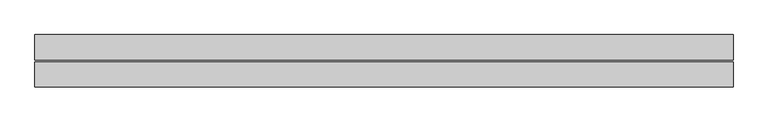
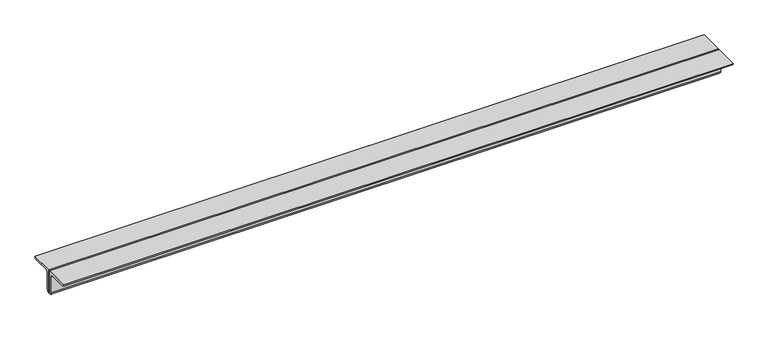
"""IFC4 building model written with IfcOpenShell, lengths in millimetres: beam geometry, Profilati doppi a L : DCED150x12."""

from ifc_helpers import new_model, si_unit, point, frame, frame_2d, origin, place, context, project, spatial, polyline, circle_curve, trimmed, segment, composite_curve, outline, extrude, source, transform, mapped, element, save


def beam_95cc8830(model_context):
    return source(origin(), model_context, "Body", "SweptSolid", [
        extrude(outline(composite_curve([segment(polyline([(-6.0, 42.4), (-6.0, -107.6)]), True, "CONTINUOUS"), segment(trimmed(circle_curve(frame_2d((-6.0, -92.6)), 15.0), [point((-6.0, -107.6))], [point((-21.0, -92.6))], False, "CARTESIAN"), True, "CONTINUOUS"), segment(polyline([(-21.0, -92.6), (-21.0, 12.4)]), True, "CONTINUOUS"), segment(trimmed(circle_curve(frame_2d((-36.0, 12.4)), 15.0), [point((-21.0, 12.4))], [point((-36.0, 27.4))], True, "CARTESIAN"), True, "CONTINUOUS"), segment(polyline([(-36.0, 27.4), (-141.0, 27.4)]), True, "CONTINUOUS"), segment(trimmed(circle_curve(frame_2d((-141.0, 42.4)), 15.0), [point((-141.0, 27.4))], [point((-156.0, 42.4))], False, "CARTESIAN"), True, "CONTINUOUS"), segment(polyline([(-156.0, 42.4), (-6.0, 42.4)]), True, "CONTINUOUS")], self_intersect=False)), frame((-1985.0, 0.0, 0.0), z_axis=(1.0, 0.0, 0.0), x_axis=(0.0, 1.0, 0.0)), (0.0, 0.0, 1.0), 4162.0),
        extrude(outline(composite_curve([segment(polyline([(6.0, 42.4), (156.0, 42.4)]), True, "CONTINUOUS"), segment(trimmed(circle_curve(frame_2d((141.0, 42.4)), 15.0), [point((156.0, 42.4))], [point((141.0, 27.4))], False, "CARTESIAN"), True, "CONTINUOUS"), segment(polyline([(141.0, 27.4), (36.0, 27.4)]), True, "CONTINUOUS"), segment(trimmed(circle_curve(frame_2d((36.0, 12.4)), 15.0), [point((36.0, 27.4))], [point((21.0, 12.4))], True, "CARTESIAN"), True, "CONTINUOUS"), segment(polyline([(21.0, 12.4), (21.0, -92.6)]), True, "CONTINUOUS"), segment(trimmed(circle_curve(frame_2d((6.0, -92.6)), 15.0), [point((21.0, -92.6))], [point((6.0, -107.6))], False, "CARTESIAN"), True, "CONTINUOUS"), segment(polyline([(6.0, -107.6), (6.0, 42.4)]), True, "CONTINUOUS")], self_intersect=False)), frame((-1985.0, 0.0, 0.0), z_axis=(1.0, 0.0, 0.0), x_axis=(0.0, 1.0, 0.0)), (0.0, 0.0, 1.0), 4162.0),
    ])


if __name__ == "__main__":
    model = new_model("IFC4")
    model_context = context("Model", 3, world=origin())
    ifc_project = project(units=[si_unit("LENGTHUNIT", "METRE", prefix="MILLI")], contexts=[model_context])
    site = spatial("IfcSite", under=ifc_project)
    building = spatial("IfcBuilding", under=site)
    placement = place(None, origin())
    beam_shape = beam_95cc8830(model_context)
    element("IfcBeam", 1, ObjectType="Profilati doppi a L : DCED150x12", at=placement, inside=building, context=model_context, shape_type="MappedRepresentation", body=[
        mapped(beam_shape, transform((0.0, 0.0, 0.0), x_axis=(1.0, 0.0, 0.0), y_axis=(0.0, 1.0, 0.0), z_axis=(0.0, 0.0, 1.0))),
    ])
    save(model, "model.ifc")
